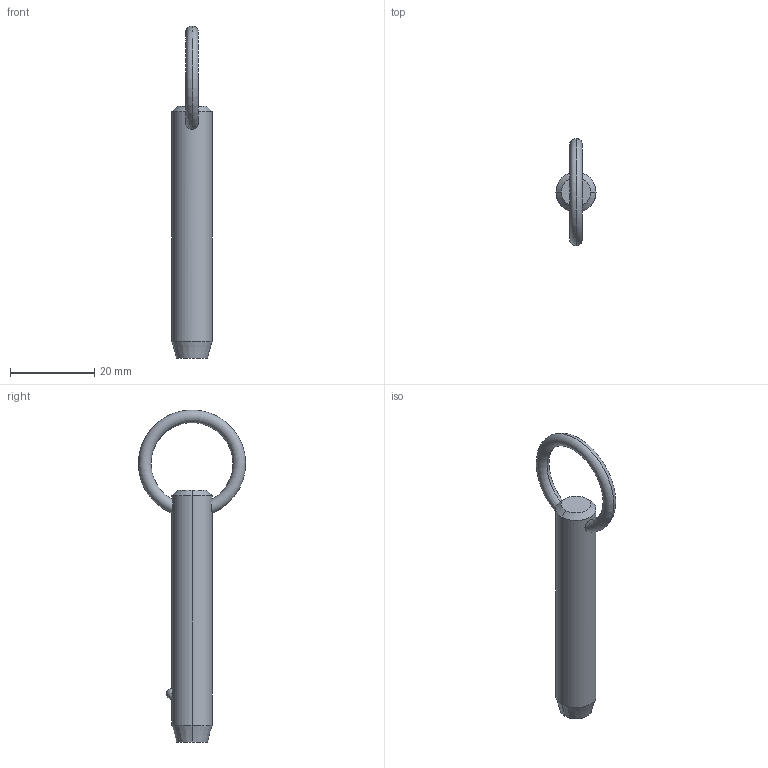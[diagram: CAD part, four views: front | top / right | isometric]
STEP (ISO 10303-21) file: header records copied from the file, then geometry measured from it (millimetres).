
FILE_DESCRIPTION (( 'STEP AP203' ), '1' );
FILE_NAME ('P1250.037-160.step', '2019-07-29T20:00:30', ( '' ), ( '' ), 'SwSTEP 2.0', 'SolidWorks 2017', '' );
FILE_SCHEMA (( 'CONFIG_CONTROL_DESIGN' ));
Length unit declared in the file: millimetre
Products named in the file (1): P1250.037-160
Bounding box: 9.52 x 25.39 x 78.7 mm (x, y, z)
Volume: 4597.1 mm3; surface area: 2426.2 mm2
Topology: 1 solids, 1 shells, 12 faces, 28 edges, 17 vertices
Faces by surface type: cone 4, torus 2, sphere 2, cylinder 2, plane 2
Entity records: 523 total; most frequent: CARTESIAN_POINT 190, DIRECTION 56, ORIENTED_EDGE 48, AXIS2_PLACEMENT_3D 25, EDGE_CURVE 24, EDGE_LOOP 15, VERTEX_POINT 15, FACE_OUTER_BOUND 12
